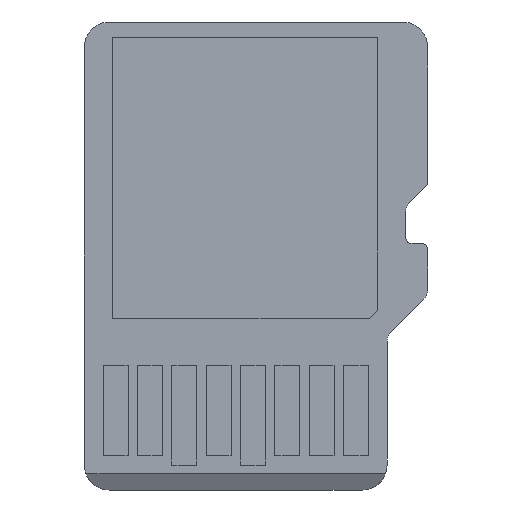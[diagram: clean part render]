
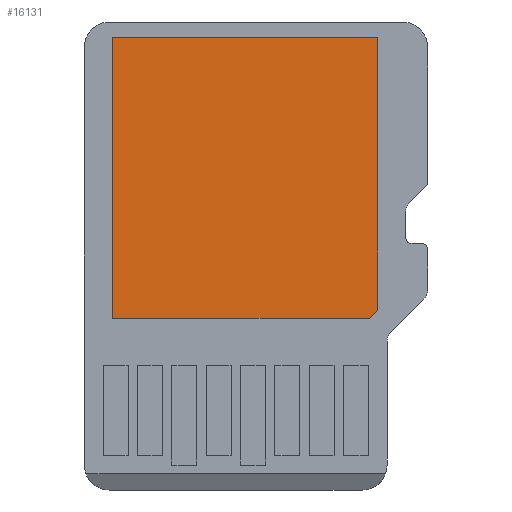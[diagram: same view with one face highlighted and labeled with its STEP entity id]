
A CAD part, front view. The second image highlights one B-rep face of the part: STEP entity #16131.
In plain terms, the highlighted planar face has unit normal (0, -1, 0).
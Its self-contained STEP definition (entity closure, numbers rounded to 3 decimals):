
#5774=DIRECTION('',(-0.707,0.,-0.707));
#5775=VECTOR('',#5774,0.376);
#5776=CARTESIAN_POINT('',(3.9,-0.5,-1.734));
#5777=LINE('',#5776,#5775);
#5778=DIRECTION('',(-1.,0.,0.));
#5779=VECTOR('',#5778,8.234);
#5780=CARTESIAN_POINT('',(3.634,-0.5,-2.));
#5781=LINE('',#5780,#5779);
#5782=DIRECTION('',(0.,0.,1.));
#5783=VECTOR('',#5782,9.);
#5784=CARTESIAN_POINT('',(-4.6,-0.5,-2.));
#5785=LINE('',#5784,#5783);
#5786=DIRECTION('',(1.,0.,0.));
#5787=VECTOR('',#5786,8.5);
#5788=CARTESIAN_POINT('',(-4.6,-0.5,7.));
#5789=LINE('',#5788,#5787);
#5790=DIRECTION('',(0.,0.,-1.));
#5791=VECTOR('',#5790,8.734);
#5792=CARTESIAN_POINT('',(3.9,-0.5,7.));
#5793=LINE('',#5792,#5791);
#7690=CARTESIAN_POINT('',(3.634,-0.5,-2.));
#7691=VERTEX_POINT('',#7690);
#7692=CARTESIAN_POINT('',(3.9,-0.5,-1.734));
#7693=VERTEX_POINT('',#7692);
#7694=CARTESIAN_POINT('',(-4.6,-0.5,-2.));
#7695=VERTEX_POINT('',#7694);
#7696=CARTESIAN_POINT('',(-4.6,-0.5,7.));
#7697=VERTEX_POINT('',#7696);
#7698=CARTESIAN_POINT('',(3.9,-0.5,7.));
#7699=VERTEX_POINT('',#7698);
#16119=CARTESIAN_POINT('',(0.,-0.5,0.));
#16120=DIRECTION('',(0.,-1.,0.));
#16121=DIRECTION('',(-1.,0.,0.));
#16122=AXIS2_PLACEMENT_3D('',#16119,#16120,#16121);
#16123=PLANE('',#16122);
#16124=ORIENTED_EDGE('',*,*,#16057,.T.);
#16125=ORIENTED_EDGE('',*,*,#16072,.T.);
#16126=ORIENTED_EDGE('',*,*,#16086,.T.);
#16127=ORIENTED_EDGE('',*,*,#16100,.T.);
#16128=ORIENTED_EDGE('',*,*,#16113,.T.);
#16129=EDGE_LOOP('',(#16124,#16125,#16126,#16127,#16128));
#16130=FACE_OUTER_BOUND('',#16129,.F.);
#16131=ADVANCED_FACE('',(#16130),#16123,.T.);
#16057=EDGE_CURVE('',#7693,#7691,#5777,.T.);
#16072=EDGE_CURVE('',#7691,#7695,#5781,.T.);
#16086=EDGE_CURVE('',#7695,#7697,#5785,.T.);
#16100=EDGE_CURVE('',#7697,#7699,#5789,.T.);
#16113=EDGE_CURVE('',#7699,#7693,#5793,.T.);
